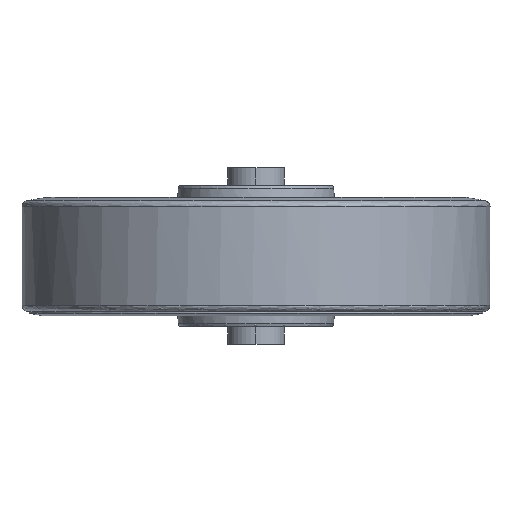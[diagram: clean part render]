
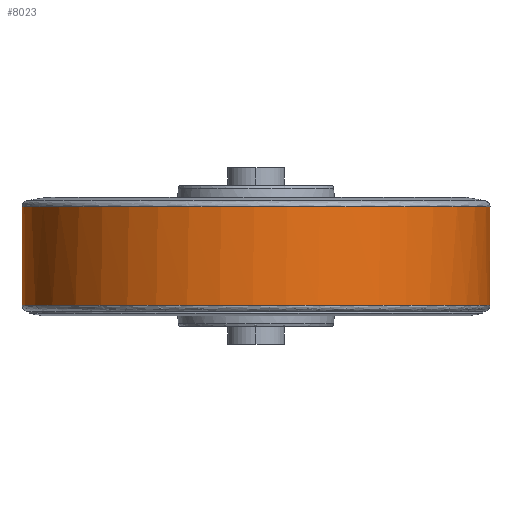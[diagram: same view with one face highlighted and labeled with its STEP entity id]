
A CAD part, left-side view. The second image highlights one B-rep face of the part: STEP entity #8023.
In plain terms, the highlighted cylindrical face has radius 200 mm (diameter 400 mm), a partial arc.
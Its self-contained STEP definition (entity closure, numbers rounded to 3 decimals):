
#303 = B_SPLINE_CURVE_WITH_KNOTS ( 'NONE', 3,
 ( #12069, #29530, #19177, #21885, #9445, #21675, #29217, #9333, #16798, #26861, #29426, #21782, #2003, #4680, #1904, #24180, #2214, #19288, #7080, #31467, #26756, #6972, #26654, #24285, #12172, #31897, #16907, #14637, #16692, #11852, #19607, #2110, #17112, #21993 ),
 .UNSPECIFIED., .F., .F.,
 ( 4, 2, 2, 2, 2, 2, 2, 2, 2, 2, 2, 2, 2, 2, 2, 2, 4 ),
 ( 0., 0.063, 0.125, 0.188, 0.25, 0.313, 0.375, 0.438, 0.5, 0.563, 0.625, 0.688, 0.75, 0.813, 0.875, 0.938, 1. ),
 .UNSPECIFIED. ) ;
#1069 = VERTEX_POINT ( 'NONE', #8578 ) ;
#1686 = CYLINDRICAL_SURFACE ( 'NONE', #25251, 200. ) ;
#1697 = CARTESIAN_POINT ( 'NONE',  ( -42.278, -51.857, 193.603 ) ) ;
#1904 = CARTESIAN_POINT ( 'NONE',  ( 42.278, -51.857, 193.603 ) ) ;
#2002 = CARTESIAN_POINT ( 'NONE',  ( -42.278, 100.23, 173.566 ) ) ;
#2003 = CARTESIAN_POINT ( 'NONE',  ( 42.278, -88.63, 179.767 ) ) ;
#2109 = CARTESIAN_POINT ( 'NONE',  ( -42.278, -189.785, 64.443 ) ) ;
#2110 = CARTESIAN_POINT ( 'NONE',  ( 42.278, 198.711, 26.18 ) ) ;
#2214 = CARTESIAN_POINT ( 'NONE',  ( 42.278, -13.09, 200. ) ) ;
#2720 = VERTEX_POINT ( 'NONE', #28533 ) ;
#4050 = CARTESIAN_POINT ( 'NONE',  ( -42.278, 173.566, 100.23 ) ) ;
#4364 = CARTESIAN_POINT ( 'NONE',  ( -42.278, -88.63, 179.767 ) ) ;
#4470 = CARTESIAN_POINT ( 'NONE',  ( -42.278, -64.443, 189.785 ) ) ;
#4680 = CARTESIAN_POINT ( 'NONE',  ( 42.278, -64.443, 189.785 ) ) ;
#5300 = EDGE_CURVE ( 'NONE', #24411, #1069, #31809, .T. ) ;
#5704 = VECTOR ( 'NONE', #29982, 1000. ) ;
#5761 = CARTESIAN_POINT ( 'NONE',  ( 42.278, 0., 0. ) ) ;
#6435 = CARTESIAN_POINT ( 'NONE',  ( -42.278, 200., 13.09 ) ) ;
#6647 = CARTESIAN_POINT ( 'NONE',  ( -42.278, 121.998, 159.022 ) ) ;
#6755 = CARTESIAN_POINT ( 'NONE',  ( -42.278, -150.677, 132.165 ) ) ;
#6972 = CARTESIAN_POINT ( 'NONE',  ( 42.278, 88.63, 179.767 ) ) ;
#7079 = CARTESIAN_POINT ( 'NONE',  ( -42.278, -26.18, 198.711 ) ) ;
#7080 = CARTESIAN_POINT ( 'NONE',  ( 42.278, 26.18, 198.711 ) ) ;
#7082 = DIRECTION ( 'NONE',  ( 1., 0., 0. ) ) ;
#7267 = ORIENTED_EDGE ( 'NONE', *, *, #11094, .T. ) ;
#7880 = B_SPLINE_CURVE_WITH_KNOTS ( 'NONE', 3,
 ( #26235, #6435, #26020, #28686, #16374, #18859, #4050, #26755, #19287, #19176, #6647, #2002, #18968, #16473, #14113, #11958, #26550, #16906, #7079, #1697, #4470, #4364, #21461, #9119, #23967, #6755, #14221, #24284, #26447, #2109, #9332, #29216, #21674, #28794 ),
 .UNSPECIFIED., .F., .F.,
 ( 4, 2, 2, 2, 2, 2, 2, 2, 2, 2, 2, 2, 2, 2, 2, 2, 4 ),
 ( 0., 0.062, 0.125, 0.187, 0.25, 0.312, 0.375, 0.437, 0.5, 0.562, 0.625, 0.687, 0.75, 0.812, 0.875, 0.937, 1. ),
 .UNSPECIFIED. ) ;
#8023 = ADVANCED_FACE ( 'NONE', ( #24518 ), #1686, .T. ) ;
#8201 = VERTEX_POINT ( 'NONE', #21242 ) ;
#8355 = DIRECTION ( 'NONE',  ( 0., 1., 0. ) ) ;
#8578 = CARTESIAN_POINT ( 'NONE',  ( 42.278, -200., 0. ) ) ;
#8728 = ORIENTED_EDGE ( 'NONE', *, *, #5300, .T. ) ;
#9119 = CARTESIAN_POINT ( 'NONE',  ( -42.278, -121.998, 159.022 ) ) ;
#9332 = CARTESIAN_POINT ( 'NONE',  ( -42.278, -193.603, 51.857 ) ) ;
#9333 = CARTESIAN_POINT ( 'NONE',  ( 42.278, -159.022, 121.998 ) ) ;
#9433 = EDGE_LOOP ( 'NONE', ( #7267, #8728, #15430, #32007 ) ) ;
#9445 = CARTESIAN_POINT ( 'NONE',  ( 42.278, -189.785, 64.443 ) ) ;
#11094 = EDGE_CURVE ( 'NONE', #8201, #24411, #7880, .T. ) ;
#11852 = CARTESIAN_POINT ( 'NONE',  ( 42.278, 189.785, 64.443 ) ) ;
#11958 = CARTESIAN_POINT ( 'NONE',  ( -42.278, 26.18, 198.711 ) ) ;
#12069 = CARTESIAN_POINT ( 'NONE',  ( 42.278, -200., 0. ) ) ;
#12172 = CARTESIAN_POINT ( 'NONE',  ( 42.278, 132.165, 150.677 ) ) ;
#14048 = EDGE_CURVE ( 'NONE', #8201, #2720, #16987, .T. ) ;
#14113 = CARTESIAN_POINT ( 'NONE',  ( -42.278, 51.857, 193.603 ) ) ;
#14221 = CARTESIAN_POINT ( 'NONE',  ( -42.278, -159.022, 121.998 ) ) ;
#14637 = CARTESIAN_POINT ( 'NONE',  ( 42.278, 173.566, 100.23 ) ) ;
#15430 = ORIENTED_EDGE ( 'NONE', *, *, #24194, .T. ) ;
#16374 = CARTESIAN_POINT ( 'NONE',  ( -42.278, 189.785, 64.443 ) ) ;
#16473 = CARTESIAN_POINT ( 'NONE',  ( -42.278, 64.443, 189.785 ) ) ;
#16692 = CARTESIAN_POINT ( 'NONE',  ( 42.278, 179.767, 88.63 ) ) ;
#16798 = CARTESIAN_POINT ( 'NONE',  ( 42.278, -150.677, 132.165 ) ) ;
#16906 = CARTESIAN_POINT ( 'NONE',  ( -42.278, -13.09, 200. ) ) ;
#16907 = CARTESIAN_POINT ( 'NONE',  ( 42.278, 159.022, 121.998 ) ) ;
#16987 = LINE ( 'NONE', #24845, #5704 ) ;
#17112 = CARTESIAN_POINT ( 'NONE',  ( 42.278, 200., 13.09 ) ) ;
#17317 = CARTESIAN_POINT ( 'NONE',  ( 42.278, -200., 0. ) ) ;
#18683 = VECTOR ( 'NONE', #7082, 1000. ) ;
#18859 = CARTESIAN_POINT ( 'NONE',  ( -42.278, 179.767, 88.63 ) ) ;
#18968 = CARTESIAN_POINT ( 'NONE',  ( -42.278, 88.63, 179.767 ) ) ;
#19176 = CARTESIAN_POINT ( 'NONE',  ( -42.278, 132.165, 150.677 ) ) ;
#19177 = CARTESIAN_POINT ( 'NONE',  ( 42.278, -198.711, 26.18 ) ) ;
#19287 = CARTESIAN_POINT ( 'NONE',  ( -42.278, 150.677, 132.165 ) ) ;
#19288 = CARTESIAN_POINT ( 'NONE',  ( 42.278, 13.09, 200. ) ) ;
#19607 = CARTESIAN_POINT ( 'NONE',  ( 42.278, 193.603, 51.857 ) ) ;
#21242 = CARTESIAN_POINT ( 'NONE',  ( -42.278, 200., 0. ) ) ;
#21461 = CARTESIAN_POINT ( 'NONE',  ( -42.278, -100.23, 173.566 ) ) ;
#21674 = CARTESIAN_POINT ( 'NONE',  ( -42.278, -200., 13.09 ) ) ;
#21675 = CARTESIAN_POINT ( 'NONE',  ( 42.278, -179.767, 88.63 ) ) ;
#21782 = CARTESIAN_POINT ( 'NONE',  ( 42.278, -100.23, 173.566 ) ) ;
#21885 = CARTESIAN_POINT ( 'NONE',  ( 42.278, -193.603, 51.857 ) ) ;
#21993 = CARTESIAN_POINT ( 'NONE',  ( 42.278, 200., 0. ) ) ;
#23180 = DIRECTION ( 'NONE',  ( 1., 0., 0. ) ) ;
#23967 = CARTESIAN_POINT ( 'NONE',  ( -42.278, -132.165, 150.677 ) ) ;
#24180 = CARTESIAN_POINT ( 'NONE',  ( 42.278, -26.18, 198.711 ) ) ;
#24194 = EDGE_CURVE ( 'NONE', #1069, #2720, #303, .T. ) ;
#24284 = CARTESIAN_POINT ( 'NONE',  ( -42.278, -173.566, 100.23 ) ) ;
#24285 = CARTESIAN_POINT ( 'NONE',  ( 42.278, 121.998, 159.022 ) ) ;
#24411 = VERTEX_POINT ( 'NONE', #29323 ) ;
#24518 = FACE_OUTER_BOUND ( 'NONE', #9433, .T. ) ;
#24845 = CARTESIAN_POINT ( 'NONE',  ( 42.278, 200., 0. ) ) ;
#25251 = AXIS2_PLACEMENT_3D ( 'NONE', #5761, #23180, #8355 ) ;
#26020 = CARTESIAN_POINT ( 'NONE',  ( -42.278, 198.711, 26.18 ) ) ;
#26235 = CARTESIAN_POINT ( 'NONE',  ( -42.278, 200., 0. ) ) ;
#26447 = CARTESIAN_POINT ( 'NONE',  ( -42.278, -179.767, 88.63 ) ) ;
#26550 = CARTESIAN_POINT ( 'NONE',  ( -42.278, 13.09, 200. ) ) ;
#26654 = CARTESIAN_POINT ( 'NONE',  ( 42.278, 100.23, 173.566 ) ) ;
#26755 = CARTESIAN_POINT ( 'NONE',  ( -42.278, 159.022, 121.998 ) ) ;
#26756 = CARTESIAN_POINT ( 'NONE',  ( 42.278, 64.443, 189.785 ) ) ;
#26861 = CARTESIAN_POINT ( 'NONE',  ( 42.278, -132.165, 150.677 ) ) ;
#28533 = CARTESIAN_POINT ( 'NONE',  ( 42.278, 200., 0. ) ) ;
#28686 = CARTESIAN_POINT ( 'NONE',  ( -42.278, 193.603, 51.857 ) ) ;
#28794 = CARTESIAN_POINT ( 'NONE',  ( -42.278, -200., 0. ) ) ;
#29216 = CARTESIAN_POINT ( 'NONE',  ( -42.278, -198.711, 26.18 ) ) ;
#29217 = CARTESIAN_POINT ( 'NONE',  ( 42.278, -173.566, 100.23 ) ) ;
#29323 = CARTESIAN_POINT ( 'NONE',  ( -42.278, -200., 0. ) ) ;
#29426 = CARTESIAN_POINT ( 'NONE',  ( 42.278, -121.998, 159.022 ) ) ;
#29530 = CARTESIAN_POINT ( 'NONE',  ( 42.278, -200., 13.09 ) ) ;
#29982 = DIRECTION ( 'NONE',  ( 1., 0., 0. ) ) ;
#31467 = CARTESIAN_POINT ( 'NONE',  ( 42.278, 51.857, 193.603 ) ) ;
#31809 = LINE ( 'NONE', #17317, #18683 ) ;
#31897 = CARTESIAN_POINT ( 'NONE',  ( 42.278, 150.677, 132.165 ) ) ;
#32007 = ORIENTED_EDGE ( 'NONE', *, *, #14048, .F. ) ;
